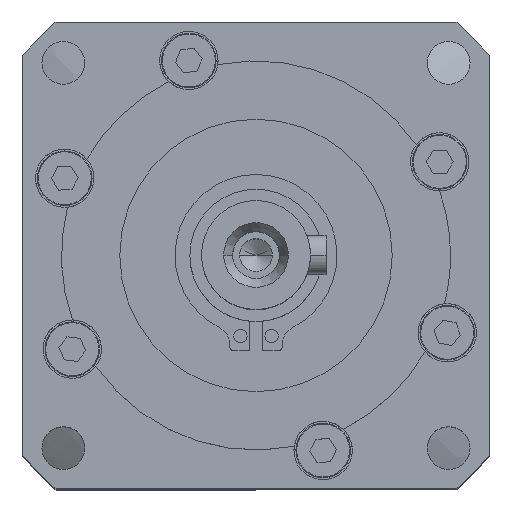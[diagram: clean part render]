
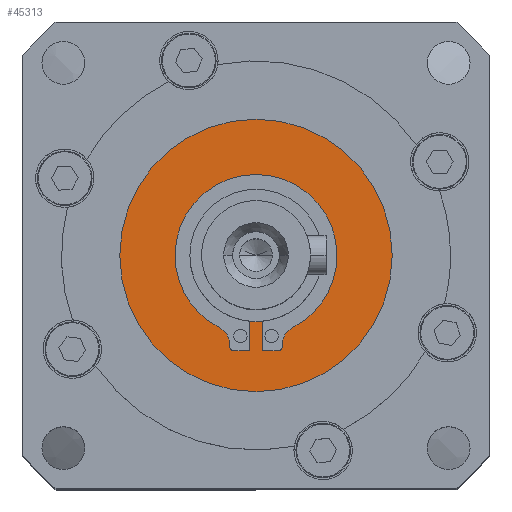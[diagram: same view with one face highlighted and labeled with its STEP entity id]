
A CAD part, top view. The second image highlights one B-rep face of the part: STEP entity #45313.
In plain terms, the highlighted planar face has unit normal (0, 0, 1).
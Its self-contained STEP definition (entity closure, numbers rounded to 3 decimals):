
#77 = DIRECTION ( 'NONE',  ( 1., 0., 0. ) ) ;
#86 = CARTESIAN_POINT ( 'NONE',  ( -0.85, 0., -1. ) ) ;
#728 = CIRCLE ( 'NONE', #43236, 0.5 ) ;
#785 = CARTESIAN_POINT ( 'NONE',  ( 0., 0., -1. ) ) ;
#1242 = VERTEX_POINT ( 'NONE', #45717 ) ;
#1349 = VERTEX_POINT ( 'NONE', #13502 ) ;
#1490 = CIRCLE ( 'NONE', #24487, 17.5 ) ;
#1857 = DIRECTION ( 'NONE',  ( 1., 0., 0. ) ) ;
#2552 = CIRCLE ( 'NONE', #42278, 17.5 ) ;
#2646 = LINE ( 'NONE', #21570, #43886 ) ;
#3285 = DIRECTION ( 'NONE',  ( 0., 0., -1. ) ) ;
#3431 = VERTEX_POINT ( 'NONE', #46286 ) ;
#3731 = VERTEX_POINT ( 'NONE', #15804 ) ;
#3837 = EDGE_CURVE ( 'NONE', #30064, #7216, #34138, .T. ) ;
#4036 = CARTESIAN_POINT ( 'NONE',  ( 0., -12.257, -1. ) ) ;
#4915 = DIRECTION ( 'NONE',  ( 1., 0., 0. ) ) ;
#5033 = CARTESIAN_POINT ( 'NONE',  ( 4.716, -9.269, -1. ) ) ;
#5617 = EDGE_CURVE ( 'NONE', #26528, #43569, #40914, .T. ) ;
#6104 = EDGE_CURVE ( 'NONE', #44836, #30064, #47375, .T. ) ;
#6710 = ORIENTED_EDGE ( 'NONE', *, *, #34446, .F. ) ;
#7216 = VERTEX_POINT ( 'NONE', #33035 ) ;
#7566 = DIRECTION ( 'NONE',  ( 0., 0., 1. ) ) ;
#7698 = CARTESIAN_POINT ( 'NONE',  ( -2.85, -11.757, -1. ) ) ;
#8038 = DIRECTION ( 'NONE',  ( 0., -1., 0. ) ) ;
#8150 = ORIENTED_EDGE ( 'NONE', *, *, #44784, .F. ) ;
#8277 = EDGE_LOOP ( 'NONE', ( #8150, #6710, #11650, #51695, #11707, #50684, #47761, #30868, #42618, #45555, #51396, #17918, #41327, #36447 ) ) ;
#8409 = CARTESIAN_POINT ( 'NONE',  ( -3.35, 0., -1. ) ) ;
#9400 = VECTOR ( 'NONE', #8038, 1000. ) ;
#9604 = EDGE_CURVE ( 'NONE', #11583, #14419, #2646, .T. ) ;
#10146 = AXIS2_PLACEMENT_3D ( 'NONE', #20092, #48882, #24214 ) ;
#10768 = DIRECTION ( 'NONE',  ( 0., 0., -1. ) ) ;
#11318 = EDGE_CURVE ( 'NONE', #3731, #44836, #43138, .T. ) ;
#11583 = VERTEX_POINT ( 'NONE', #46490 ) ;
#11650 = ORIENTED_EDGE ( 'NONE', *, *, #3837, .F. ) ;
#11707 = ORIENTED_EDGE ( 'NONE', *, *, #11318, .F. ) ;
#11841 = DIRECTION ( 'NONE',  ( -1., 0., 0. ) ) ;
#12432 = VECTOR ( 'NONE', #77, 1000. ) ;
#12698 = VERTEX_POINT ( 'NONE', #49786 ) ;
#13502 = CARTESIAN_POINT ( 'NONE',  ( -2.85, -12.257, -1. ) ) ;
#13576 = VECTOR ( 'NONE', #37205, 1000. ) ;
#13714 = FACE_OUTER_BOUND ( 'NONE', #30738, .T. ) ;
#14037 = VERTEX_POINT ( 'NONE', #46868 ) ;
#14419 = VERTEX_POINT ( 'NONE', #16764 ) ;
#15366 = DIRECTION ( 'NONE',  ( 0., 0., 1. ) ) ;
#15533 = AXIS2_PLACEMENT_3D ( 'NONE', #43733, #19081, #47879 ) ;
#15678 = CARTESIAN_POINT ( 'NONE',  ( 0., 0., -1. ) ) ;
#15804 = CARTESIAN_POINT ( 'NONE',  ( -10.4, 0., -1. ) ) ;
#16764 = CARTESIAN_POINT ( 'NONE',  ( 3.35, -11.497, -1. ) ) ;
#16857 = EDGE_CURVE ( 'NONE', #14419, #47512, #29013, .T. ) ;
#17918 = ORIENTED_EDGE ( 'NONE', *, *, #5617, .F. ) ;
#18104 = CARTESIAN_POINT ( 'NONE',  ( 0., 0., -1. ) ) ;
#18681 = EDGE_CURVE ( 'NONE', #47512, #14037, #41793, .T. ) ;
#19081 = DIRECTION ( 'NONE',  ( 0., 0., 1. ) ) ;
#19591 = EDGE_CURVE ( 'NONE', #3431, #26528, #25629, .T. ) ;
#19786 = DIRECTION ( 'NONE',  ( 1., 0., 0. ) ) ;
#20092 = CARTESIAN_POINT ( 'NONE',  ( 0., 0., -1. ) ) ;
#20119 = CIRCLE ( 'NONE', #20722, 10.4 ) ;
#20722 = AXIS2_PLACEMENT_3D ( 'NONE', #18104, #46900, #22239 ) ;
#20813 = VECTOR ( 'NONE', #41322, 1000. ) ;
#21570 = CARTESIAN_POINT ( 'NONE',  ( 3.35, 0., -1. ) ) ;
#21817 = AXIS2_PLACEMENT_3D ( 'NONE', #24365, #53144, #29244 ) ;
#22239 = DIRECTION ( 'NONE',  ( -1., 0., 0. ) ) ;
#24052 = ORIENTED_EDGE ( 'NONE', *, *, #44629, .T. ) ;
#24214 = DIRECTION ( 'NONE',  ( -1., 0., 0. ) ) ;
#24365 = CARTESIAN_POINT ( 'NONE',  ( 5.85, -11.497, -1. ) ) ;
#24487 = AXIS2_PLACEMENT_3D ( 'NONE', #785, #29576, #4915 ) ;
#24716 = CIRCLE ( 'NONE', #15533, 0.5 ) ;
#25176 = AXIS2_PLACEMENT_3D ( 'NONE', #32217, #7566, #36369 ) ;
#25492 = EDGE_CURVE ( 'NONE', #43569, #12698, #46596, .T. ) ;
#25629 = CIRCLE ( 'NONE', #25176, 8.5 ) ;
#25882 = DIRECTION ( 'NONE',  ( 0., 1., 0. ) ) ;
#26528 = VERTEX_POINT ( 'NONE', #29874 ) ;
#27960 = CARTESIAN_POINT ( 'NONE',  ( -5.85, -11.497, -1. ) ) ;
#28877 = CARTESIAN_POINT ( 'NONE',  ( 17.5, 0., -1. ) ) ;
#29013 = CIRCLE ( 'NONE', #21817, 2.5 ) ;
#29244 = DIRECTION ( 'NONE',  ( -1., 0., 0. ) ) ;
#29576 = DIRECTION ( 'NONE',  ( 0., 0., 1. ) ) ;
#29874 = CARTESIAN_POINT ( 'NONE',  ( 0.85, -8.457, -1. ) ) ;
#30064 = VERTEX_POINT ( 'NONE', #50633 ) ;
#30463 = VECTOR ( 'NONE', #1857, 1000. ) ;
#30693 = AXIS2_PLACEMENT_3D ( 'NONE', #27960, #3285, #32096 ) ;
#30738 = EDGE_LOOP ( 'NONE', ( #24052, #39935 ) ) ;
#30868 = ORIENTED_EDGE ( 'NONE', *, *, #16857, .F. ) ;
#31764 = LINE ( 'NONE', #86, #20813 ) ;
#32096 = DIRECTION ( 'NONE',  ( -1., 0., 0. ) ) ;
#32217 = CARTESIAN_POINT ( 'NONE',  ( 0., 0., -1. ) ) ;
#32672 = CARTESIAN_POINT ( 'NONE',  ( 0.85, 0., -1. ) ) ;
#32706 = EDGE_CURVE ( 'NONE', #1242, #3431, #31764, .T. ) ;
#33035 = CARTESIAN_POINT ( 'NONE',  ( -3.35, -11.757, -1. ) ) ;
#34138 = LINE ( 'NONE', #8409, #13576 ) ;
#34446 = EDGE_CURVE ( 'NONE', #7216, #1349, #728, .T. ) ;
#35403 = CARTESIAN_POINT ( 'NONE',  ( 0., 0., -1. ) ) ;
#36369 = DIRECTION ( 'NONE',  ( -1., 0., 0. ) ) ;
#36447 = ORIENTED_EDGE ( 'NONE', *, *, #32706, .F. ) ;
#36486 = DIRECTION ( 'NONE',  ( 0., 0., 1. ) ) ;
#37205 = DIRECTION ( 'NONE',  ( 0., -1., 0. ) ) ;
#37626 = EDGE_CURVE ( 'NONE', #49802, #45513, #2552, .T. ) ;
#39116 = CARTESIAN_POINT ( 'NONE',  ( 0., -12.257, -1. ) ) ;
#39554 = DIRECTION ( 'NONE',  ( -1., 0., 0. ) ) ;
#39935 = ORIENTED_EDGE ( 'NONE', *, *, #37626, .T. ) ;
#39998 = CARTESIAN_POINT ( 'NONE',  ( 0., 0., -1. ) ) ;
#40106 = LINE ( 'NONE', #39116, #30463 ) ;
#40914 = LINE ( 'NONE', #32672, #9400 ) ;
#41322 = DIRECTION ( 'NONE',  ( 0., 1., 0. ) ) ;
#41327 = ORIENTED_EDGE ( 'NONE', *, *, #19591, .F. ) ;
#41431 = CARTESIAN_POINT ( 'NONE',  ( -17.5, 0., -1. ) ) ;
#41781 = AXIS2_PLACEMENT_3D ( 'NONE', #35403, #10768, #39554 ) ;
#41793 = CIRCLE ( 'NONE', #10146, 10.4 ) ;
#42278 = AXIS2_PLACEMENT_3D ( 'NONE', #15678, #44451, #19786 ) ;
#42618 = ORIENTED_EDGE ( 'NONE', *, *, #9604, .F. ) ;
#43138 = CIRCLE ( 'NONE', #46506, 10.4 ) ;
#43236 = AXIS2_PLACEMENT_3D ( 'NONE', #7698, #36486, #11841 ) ;
#43524 = PLANE ( 'NONE',  #41781 ) ;
#43569 = VERTEX_POINT ( 'NONE', #53447 ) ;
#43733 = CARTESIAN_POINT ( 'NONE',  ( 2.85, -11.757, -1. ) ) ;
#43862 = EDGE_CURVE ( 'NONE', #12698, #11583, #24716, .T. ) ;
#43886 = VECTOR ( 'NONE', #25882, 1000. ) ;
#43948 = FACE_BOUND ( 'NONE', #8277, .T. ) ;
#44142 = DIRECTION ( 'NONE',  ( -1., 0., 0. ) ) ;
#44451 = DIRECTION ( 'NONE',  ( 0., 0., 1. ) ) ;
#44629 = EDGE_CURVE ( 'NONE', #45513, #49802, #1490, .T. ) ;
#44784 = EDGE_CURVE ( 'NONE', #1349, #1242, #40106, .T. ) ;
#44836 = VERTEX_POINT ( 'NONE', #47768 ) ;
#45313 = ADVANCED_FACE ( 'NONE', ( #43948, #13714 ), #43524, .F. ) ;
#45513 = VERTEX_POINT ( 'NONE', #28877 ) ;
#45555 = ORIENTED_EDGE ( 'NONE', *, *, #43862, .F. ) ;
#45717 = CARTESIAN_POINT ( 'NONE',  ( -0.85, -12.257, -1. ) ) ;
#46286 = CARTESIAN_POINT ( 'NONE',  ( -0.85, -8.457, -1. ) ) ;
#46490 = CARTESIAN_POINT ( 'NONE',  ( 3.35, -11.757, -1. ) ) ;
#46506 = AXIS2_PLACEMENT_3D ( 'NONE', #39998, #15366, #44142 ) ;
#46596 = LINE ( 'NONE', #4036, #12432 ) ;
#46868 = CARTESIAN_POINT ( 'NONE',  ( 10.4, 0., -1. ) ) ;
#46900 = DIRECTION ( 'NONE',  ( 0., 0., 1. ) ) ;
#47375 = CIRCLE ( 'NONE', #30693, 2.5 ) ;
#47512 = VERTEX_POINT ( 'NONE', #5033 ) ;
#47761 = ORIENTED_EDGE ( 'NONE', *, *, #18681, .F. ) ;
#47768 = CARTESIAN_POINT ( 'NONE',  ( -4.716, -9.269, -1. ) ) ;
#47879 = DIRECTION ( 'NONE',  ( -1., 0., 0. ) ) ;
#48882 = DIRECTION ( 'NONE',  ( 0., 0., 1. ) ) ;
#49436 = EDGE_CURVE ( 'NONE', #14037, #3731, #20119, .T. ) ;
#49786 = CARTESIAN_POINT ( 'NONE',  ( 2.85, -12.257, -1. ) ) ;
#49802 = VERTEX_POINT ( 'NONE', #41431 ) ;
#50633 = CARTESIAN_POINT ( 'NONE',  ( -3.35, -11.497, -1. ) ) ;
#50684 = ORIENTED_EDGE ( 'NONE', *, *, #49436, .F. ) ;
#51396 = ORIENTED_EDGE ( 'NONE', *, *, #25492, .F. ) ;
#51695 = ORIENTED_EDGE ( 'NONE', *, *, #6104, .F. ) ;
#53144 = DIRECTION ( 'NONE',  ( 0., 0., -1. ) ) ;
#53447 = CARTESIAN_POINT ( 'NONE',  ( 0.85, -12.257, -1. ) ) ;
